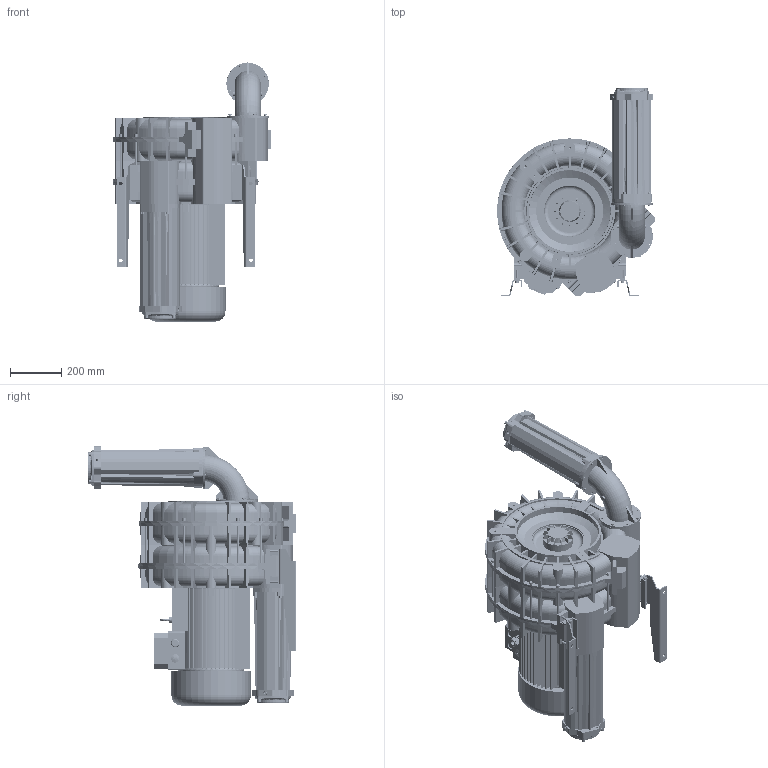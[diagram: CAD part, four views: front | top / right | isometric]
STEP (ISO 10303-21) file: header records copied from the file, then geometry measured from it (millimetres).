
FILE_DESCRIPTION (( 'STEP AP203' ), '1' );
FILE_NAME ('STP-L_e_11_TD_MOR_IE3WR_160_18.5kW-3_24-00.step', '2025-01-14T09:28:03', ( '' ), ( '' ), 'SwSTEP 2.0', 'SolidWorks 2024', '' );
FILE_SCHEMA (( 'CONFIG_CONTROL_DESIGN' ));
Length unit declared in the file: millimetre
Products named in the file (1): STP-L_e_11_TD_MOR_IE3WR_160_18.5kW-3_24-00
Bounding box: 616.34 x 813.84 x 1012 mm (x, y, z)
Volume: 113438654.5 mm3; surface area: 6184899.9 mm2
Topology: 101 solids, 101 shells, 7219 faces, 18564 edges, 11553 vertices
Faces by surface type: plane 2501, cylinder 2192, bspline 1165, torus 680, cone 624, sphere 57
Full cylindrical faces by diameter (mm): 6.8 x36, 7.5 x4, 8 x37, 8.4 x33, 8.5 x14, 8.566 x2, 8.8 x4, 9 x8, 9.98 x2, 10 x7, 11 x12, 12 x2, 12.02 x2, 13 x54, 14 x14, 16 x12, 16.5 x2, 18 x1, 19 x4, 24.4 x1, 27 x7, 28 x3, 32.5 x1, 33 x1, 90.4 x2, 94.7 x1, 110.4 x2, 115 x4, 120 x1, 128 x3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
Entity records: 335203 total; most frequent: CARTESIAN_POINT 175224, ORIENTED_EDGE 35250, DIRECTION 30375, EDGE_CURVE 17625, AXIS2_PLACEMENT_3D 11833, VERTEX_POINT 11288, EDGE_LOOP 8119, FACE_OUTER_BOUND 7609
